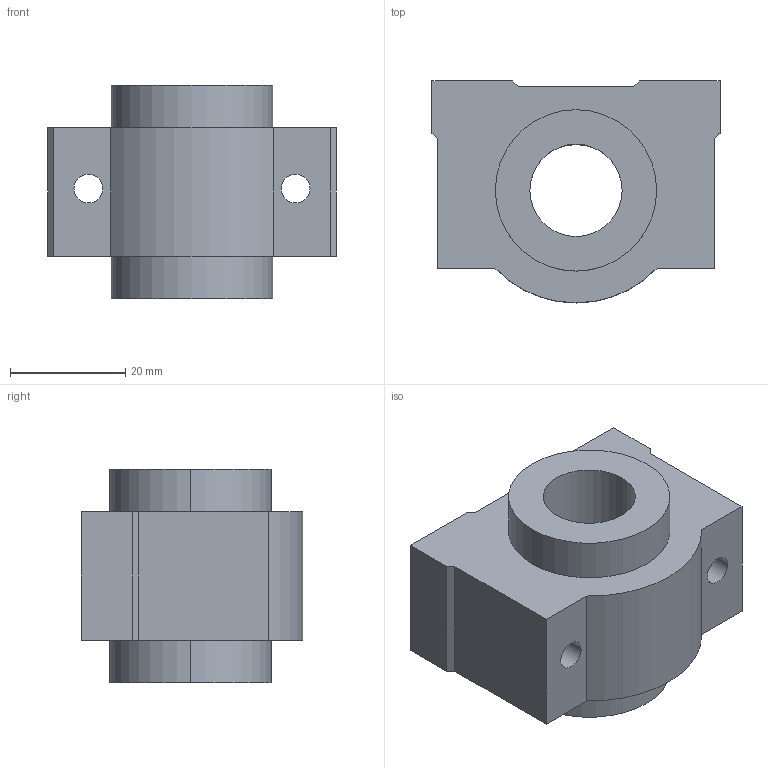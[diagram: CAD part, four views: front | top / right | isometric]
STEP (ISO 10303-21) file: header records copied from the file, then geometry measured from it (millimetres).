
FILE_DESCRIPTION((''),'2;1');
FILE_NAME('C:\Documents and Settings\ｿﾀﾀ蠑ｷ1\ｹﾙﾅﾁ ﾈｭｸ饅\ｺﾎﾇｰﾆﾄﾀﾏ\ﾁｦﾇｰ\SCE__VUU\SCE16VUU.stp','2005-06-22T15:11:57',('ｿﾀﾀ蠑ｷ1'),(''),'Autodesk Inventor 9','Autodesk Inventor 9','');
FILE_SCHEMA(('AUTOMOTIVE_DESIGN { 1 0 10303 214 1 1 1 1 }'));
Length unit declared in the file: millimetre
Products named in the file (1): SCE__VUU
Bounding box: 50 x 38.5 x 37 mm (x, y, z)
Volume: 37678.9 mm3; surface area: 10787.6 mm2
Topology: 1 solids, 1 shells, 28 faces, 72 edges, 48 vertices
Faces by surface type: plane 17, cylinder 7, bspline 4
Entity records: 945 total; most frequent: CARTESIAN_POINT 217, DIRECTION 144, ORIENTED_EDGE 144, EDGE_CURVE 72, VECTOR 50, LINE 50, VERTEX_POINT 48, AXIS2_PLACEMENT_3D 47
